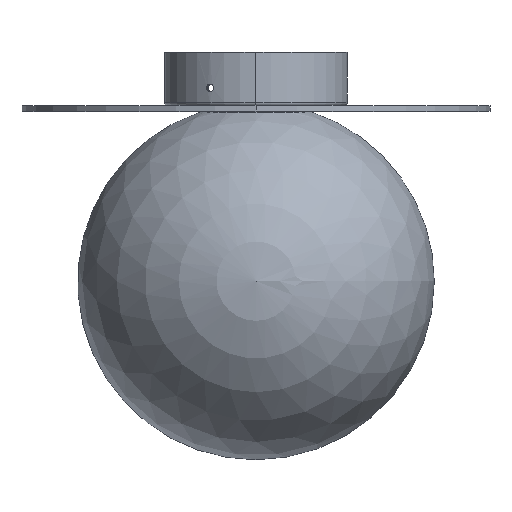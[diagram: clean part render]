
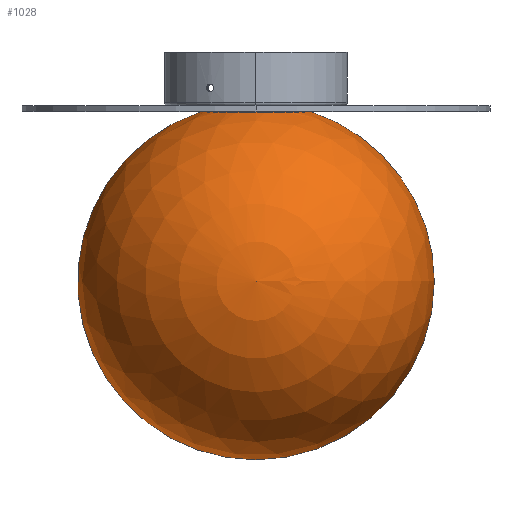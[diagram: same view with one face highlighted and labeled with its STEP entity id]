
A CAD part, top view. The second image highlights one B-rep face of the part: STEP entity #1028.
In plain terms, the highlighted spherical face has radius 80 mm.
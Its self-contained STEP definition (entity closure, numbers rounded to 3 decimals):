
#37 = SPHERICAL_SURFACE ( 'NONE', #826, 80. ) ;
#62 = EDGE_CURVE ( 'NONE', #140, #1077, #2608, .T. ) ;
#87 = DIRECTION ( 'NONE',  ( 0., 1., 0. ) ) ;
#140 = VERTEX_POINT ( 'NONE', #2113 ) ;
#276 = DIRECTION ( 'NONE',  ( 0., 0., 1. ) ) ;
#421 = DIRECTION ( 'NONE',  ( 1., 0., 0. ) ) ;
#564 = CIRCLE ( 'NONE', #1555, 80. ) ;
#634 = CARTESIAN_POINT ( 'NONE',  ( 0., 0., 0. ) ) ;
#649 = DIRECTION ( 'NONE',  ( 0., 0., -1. ) ) ;
#749 = AXIS2_PLACEMENT_3D ( 'NONE', #1424, #1020, #2730 ) ;
#826 = AXIS2_PLACEMENT_3D ( 'NONE', #634, #649, #421 ) ;
#869 = FACE_OUTER_BOUND ( 'NONE', #2600, .T. ) ;
#958 = DIRECTION ( 'NONE',  ( -1., 0., 0. ) ) ;
#1020 = DIRECTION ( 'NONE',  ( 0., 0., -1. ) ) ;
#1028 = ADVANCED_FACE ( 'NONE', ( #869 ), #37, .T. ) ;
#1077 = VERTEX_POINT ( 'NONE', #2496 ) ;
#1197 = EDGE_CURVE ( 'NONE', #1077, #2451, #2643, .T. ) ;
#1417 = AXIS2_PLACEMENT_3D ( 'NONE', #2040, #87, #958 ) ;
#1424 = CARTESIAN_POINT ( 'NONE',  ( 0., 0., 0. ) ) ;
#1555 = AXIS2_PLACEMENT_3D ( 'NONE', #2228, #276, #1600 ) ;
#1567 = EDGE_CURVE ( 'NONE', #140, #2451, #564, .T. ) ;
#1600 = DIRECTION ( 'NONE',  ( 1., 0., 0. ) ) ;
#1653 = CARTESIAN_POINT ( 'NONE',  ( 25., 75.993, 0. ) ) ;
#1787 = ORIENTED_EDGE ( 'NONE', *, *, #62, .F. ) ;
#2040 = CARTESIAN_POINT ( 'NONE',  ( 0., 75.993, 0. ) ) ;
#2113 = CARTESIAN_POINT ( 'NONE',  ( 0., -80., 0. ) ) ;
#2228 = CARTESIAN_POINT ( 'NONE',  ( 0., 0., 0. ) ) ;
#2272 = ORIENTED_EDGE ( 'NONE', *, *, #1567, .T. ) ;
#2451 = VERTEX_POINT ( 'NONE', #1653 ) ;
#2496 = CARTESIAN_POINT ( 'NONE',  ( -25., 75.993, 0. ) ) ;
#2600 = EDGE_LOOP ( 'NONE', ( #1787, #2272, #2681 ) ) ;
#2608 = CIRCLE ( 'NONE', #749, 80. ) ;
#2643 = CIRCLE ( 'NONE', #1417, 25. ) ;
#2681 = ORIENTED_EDGE ( 'NONE', *, *, #1197, .F. ) ;
#2730 = DIRECTION ( 'NONE',  ( -1., 0., 0. ) ) ;
